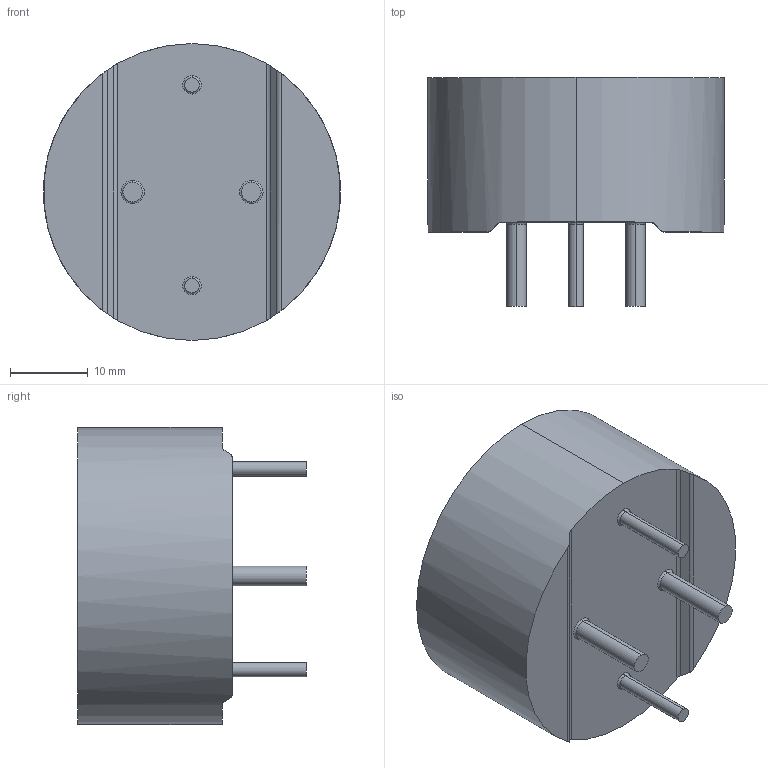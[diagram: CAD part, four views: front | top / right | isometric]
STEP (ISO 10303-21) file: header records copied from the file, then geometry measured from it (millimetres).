
FILE_DESCRIPTION (( 'STEP AP214' ), '1' );
FILE_NAME ('IHTH-1500TZ-5A 47uH.STEP', '2025-03-14T19:31:20', ( '' ), ( '' ), 'SwSTEP 2.0', 'SolidWorks 2024', '' );
FILE_SCHEMA (( 'AUTOMOTIVE_DESIGN' ));
Length unit declared in the file: inch
Products named in the file (1): IHTH-1500TZ-5A 47uH
Bounding box: 38.1 x 29.34 x 38.1 mm (x, y, z)
Volume: 21791.1 mm3; surface area: 4918.2 mm2
Topology: 1 solids, 1 shells, 204 faces, 523 edges, 346 vertices
Faces by surface type: plane 141, bspline 37, cylinder 18, torus 8
Entity records: 8480 total; most frequent: CARTESIAN_POINT 3723, ORIENTED_EDGE 1046, DIRECTION 821, EDGE_CURVE 523, VECTOR 389, LINE 389, VERTEX_POINT 346, EDGE_LOOP 229
